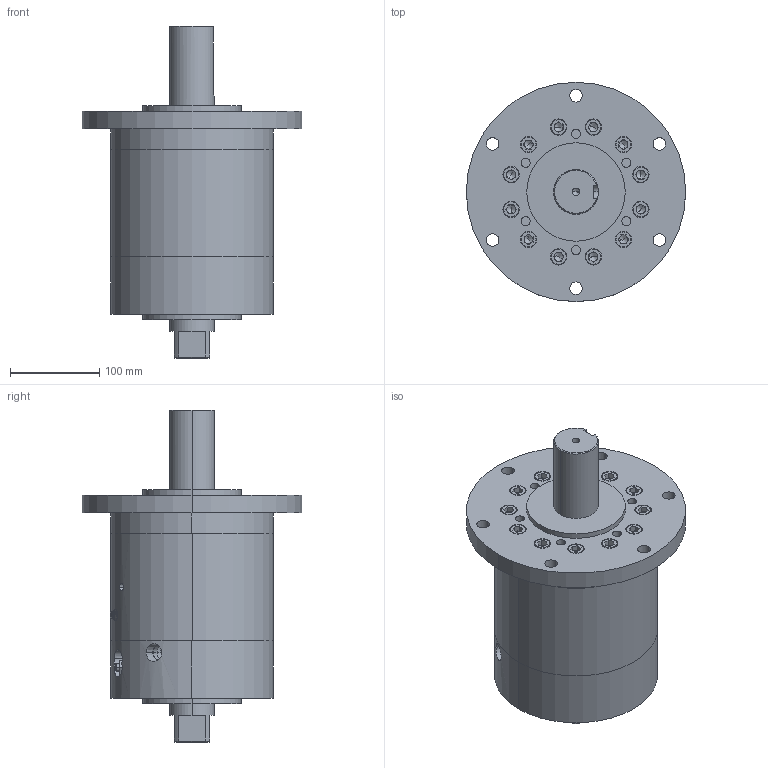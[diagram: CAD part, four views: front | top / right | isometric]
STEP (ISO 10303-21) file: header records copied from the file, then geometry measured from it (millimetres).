
FILE_DESCRIPTION (( 'STEP AP203' ), '1' );
FILE_NAME ('HRN700S-C.STEP', '2016-01-14T17:05:00', ( '' ), ( '' ), 'SwSTEP 2.0', 'SolidWorks 2014', '' );
FILE_SCHEMA (( 'CONFIG_CONTROL_DESIGN' ));
Length unit declared in the file: millimetre
Products named in the file (9): mark-700C; 4; 2; 5; 3; HRN700S-C; ISO 4762 M12 x 30; 3.3; 1
Assembly tree (32 placements, depth 2):
  HRN700S-C
    1
    2
    3
    3.3  x2
    4
    5
    ISO 4762 M12 x 30  x24
    mark-700C
Bounding box: 245 x 245 x 371 mm (x, y, z)
Volume: 6678980.4 mm3; surface area: 569101.7 mm2
Topology: 38 solids, 38 shells, 1047 faces, 2361 edges, 1412 vertices
Faces by surface type: plane 480, cylinder 274, cone 162, torus 96, bspline 35
Entity records: 16847 total; most frequent: CARTESIAN_POINT 5998, DIRECTION 1964, ORIENTED_EDGE 1854, EDGE_CURVE 927, AXIS2_PLACEMENT_3D 806, VERTEX_POINT 605, EDGE_LOOP 506, CIRCLE 410
